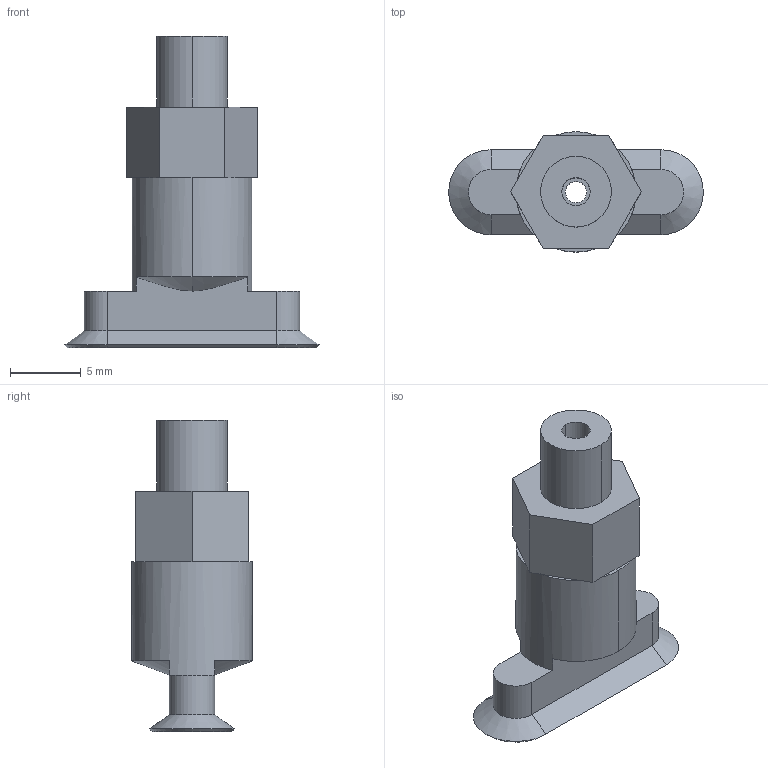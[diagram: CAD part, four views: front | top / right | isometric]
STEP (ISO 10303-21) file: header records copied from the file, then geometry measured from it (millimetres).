
FILE_DESCRIPTION(('STEP AP214'),'1');
FILE_NAME('10_01_05_00408.stp','2021-01-28T16:52:18',('TraceParts'),('TraceParts S.A.'),'Spatial InterOp 3D',' ',' ');
FILE_SCHEMA(('AUTOMOTIVE_DESIGN { 1 0 10303 214 1 1 1 1 }'));
Length unit declared in the file: millimetre
Products named in the file (1): 10_01_05_00408
Bounding box: 18 x 8.5 x 22 mm (x, y, z)
Volume: 928.2 mm3; surface area: 936.1 mm2
Topology: 1 solids, 2 shells, 57 faces, 128 edges, 76 vertices
Faces by surface type: plane 33, cone 12, cylinder 12
Entity records: 2079 total; most frequent: CARTESIAN_POINT 296, DIRECTION 288, ORIENTED_EDGE 256, EDGE_CURVE 128, AXIS2_PLACEMENT_3D 106, VERTEX_POINT 76, LINE 76, VECTOR 76
